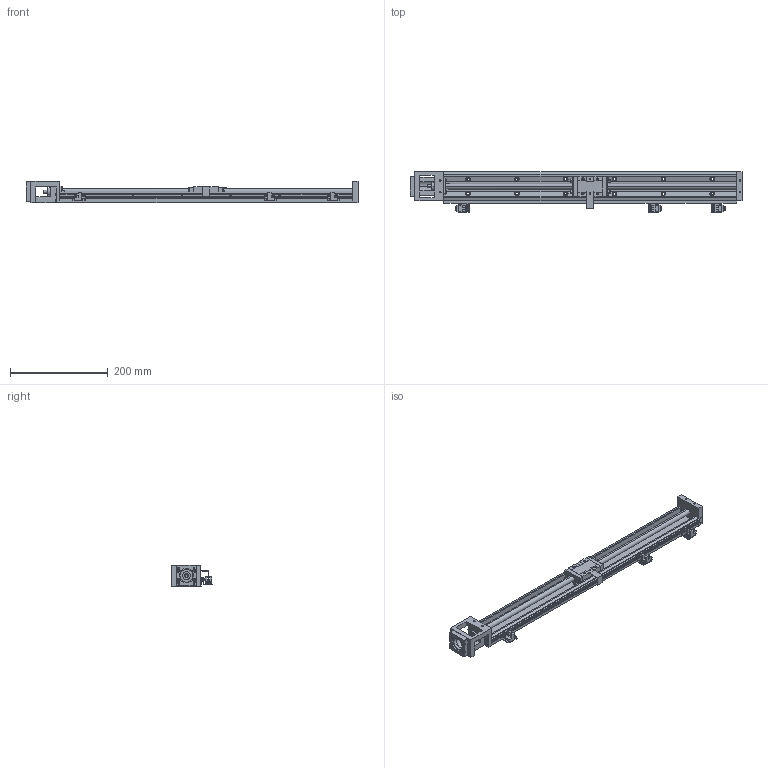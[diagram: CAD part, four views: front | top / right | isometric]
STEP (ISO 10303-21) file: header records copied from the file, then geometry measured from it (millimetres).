
FILE_DESCRIPTION(('starvars output'),'2;1');
FILE_NAME('cv20191118115839000025239.stp','11:58:40 2019/11/18',( 'Thomas Industrial Network Germany GmbH'),( 'Thomas Industrial Network Germany GmbH'),'unknown preprocess','ACIS' ,'unknown authorization');
FILE_SCHEMA(('AUTOMOTIVE_DESIGN_CC2 {UNKNOWN IMPLEMENTATION LEVEL}'));
Length unit declared in the file: millimetre
Products named in the file (2): PRODUCT_ID_1; PRODUCT_ID_2
Bounding box: 680 x 82.86 x 44.5 mm (x, y, z)
Volume: 657401.9 mm3; surface area: 205091 mm2
Topology: 2 solids, 2 shells, 1283 faces, 3102 edges, 1938 vertices
Faces by surface type: plane 697, cylinder 292, cone 228, torus 56, sphere 10
Entity records: 42712 total; most frequent: ORIENTED_EDGE 6144, CARTESIAN_POINT 5516, DIRECTION 4749, EDGE_CURVE 3072, VERTEX_POINT 1938, VECTOR 1831, LINE 1831, EDGE_LOOP 1492
